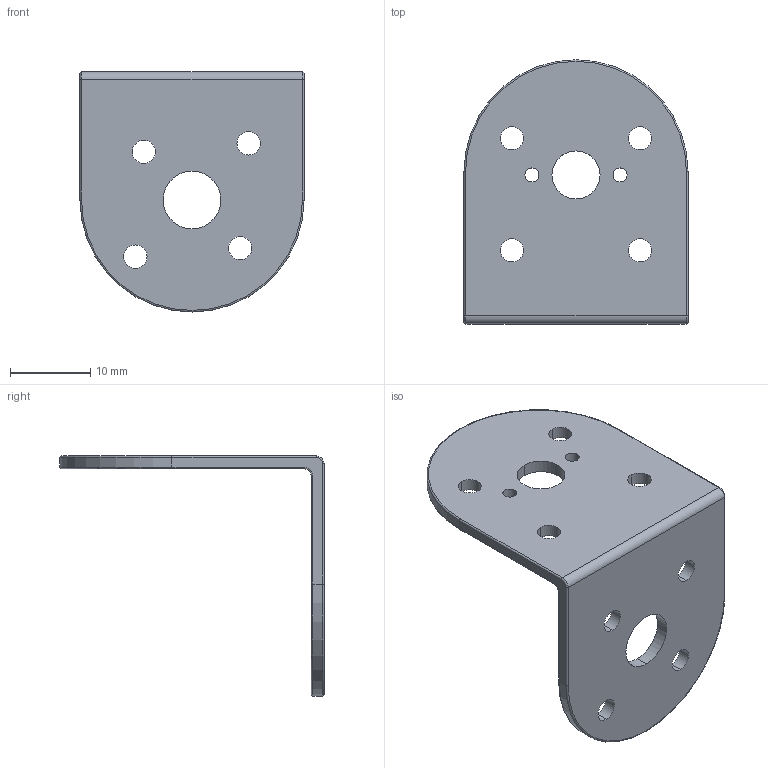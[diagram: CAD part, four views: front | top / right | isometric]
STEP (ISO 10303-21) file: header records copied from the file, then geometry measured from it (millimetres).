
FILE_DESCRIPTION (( 'STEP AP214' ), '1' );
FILE_NAME ('PiBorg Advanced Motor Bracket Mount Small.STEP', '2022-02-18T21:51:17', ( '' ), ( '' ), 'SwSTEP 2.0', 'SolidWorks 2022', '' );
FILE_SCHEMA (( 'AUTOMOTIVE_DESIGN' ));
Length unit declared in the file: millimetre
Products named in the file (1): PiBorg Advanced Motor Bracket Mount Small
Bounding box: 28 x 33 x 30 mm (x, y, z)
Volume: 2276.3 mm3; surface area: 3246.3 mm2
Topology: 1 solids, 1 shells, 51 faces, 131 edges, 82 vertices
Faces by surface type: cylinder 36, torus 9, plane 6
Entity records: 1662 total; most frequent: DIRECTION 318, CARTESIAN_POINT 265, ORIENTED_EDGE 262, AXIS2_PLACEMENT_3D 135, EDGE_CURVE 131, CIRCLE 83, VERTEX_POINT 82, EDGE_LOOP 75
